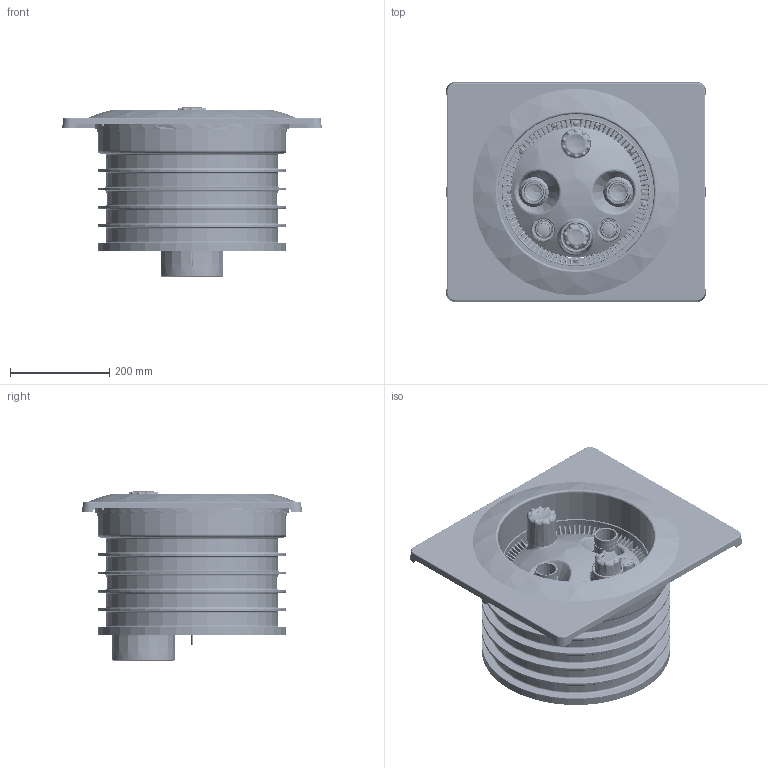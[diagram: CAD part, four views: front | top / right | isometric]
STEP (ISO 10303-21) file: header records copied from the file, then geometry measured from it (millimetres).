
FILE_DESCRIPTION(/* description */ (''),/* implementation_level */ '2;1');
FILE_NAME(/* name */ '\\USERS01\Users\b.davidson\Documents\BaduJet Super-Sport II\BaduJet Super-Sport II.stp',/* time_stamp */ '2017-02-21T14:38:54-05:00',/* author */ ('b.davidson'),/* organization */ (''),/* preprocessor_version */ 'ST-DEVELOPER v16.5',/* originating_system */ 'Autodesk Inventor 2017',/* authorisation */ '');
FILE_SCHEMA (('AUTOMOTIVE_DESIGN { 1 0 10303 214 3 1 1 }'));
Products named in the file (1): BaduJet Super-Sport II
Bounding box: 522 x 442 x 339.92 mm (x, y, z)
Volume: 7482856.7 mm3; surface area: 2814399.6 mm2
Topology: 4 solids, 79 shells, 12028 faces, 31976 edges, 20050 vertices
Faces by surface type: bspline 4367, plane 3655, cylinder 2242, torus 899, cone 668, sphere 197
Full cylindrical faces by diameter (mm): 0.666 x1, 0.858 x1, 1 x3, 1.037 x1, 1.223 x1, 1.499 x1, 1.7 x1, 1.716 x1, 1.814 x1, 1.843 x1, 1.875 x1, 1.911 x1, 1.935 x1, 1.976 x1, 2 x2, 2.4 x3, 2.433 x1, 2.473 x1, 2.645 x1, 2.685 x1, 2.8 x24, 2.872 x1, 3 x7, 3.058 x1, 3.392 x1, 3.5 x24, 4.5 x2, 4.85 x62, 4.88 x122, 5 x14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
Entity records: 512608 total; most frequent: CARTESIAN_POINT 238409, ORIENTED_EDGE 59246, DIRECTION 45607, EDGE_CURVE 29622, VERTEX_POINT 19320, AXIS2_PLACEMENT_3D 17517, EDGE_LOOP 14127, FACE_OUTER_BOUND 12012
